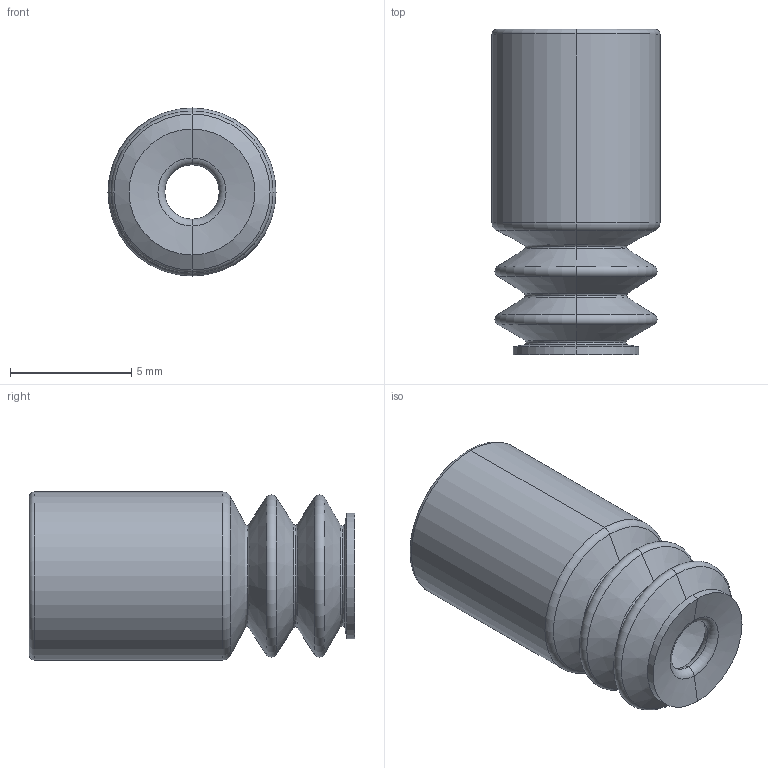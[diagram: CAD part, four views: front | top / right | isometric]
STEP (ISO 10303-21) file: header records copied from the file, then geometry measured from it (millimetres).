
FILE_DESCRIPTION (( 'STEP AP203' ), '1' );
FILE_NAME ('2-2 05--3.STEP', '2021-02-16T07:57:31', ( '' ), ( '' ), 'SwSTEP 2.0', 'SolidWorks 2021', '' );
FILE_SCHEMA (( 'CONFIG_CONTROL_DESIGN' ));
Length unit declared in the file: millimetre
Products named in the file (1): 2-2 05--3
Bounding box: 6.95 x 13.44 x 6.95 mm (x, y, z)
Volume: 290.8 mm3; surface area: 554.3 mm2
Topology: 1 solids, 1 shells, 69 faces, 138 edges, 70 vertices
Faces by surface type: torus 38, cone 24, cylinder 6, plane 1
Entity records: 1853 total; most frequent: DIRECTION 386, CARTESIAN_POINT 278, ORIENTED_EDGE 276, AXIS2_PLACEMENT_3D 178, EDGE_CURVE 138, CIRCLE 108, EDGE_LOOP 70, VERTEX_POINT 70
